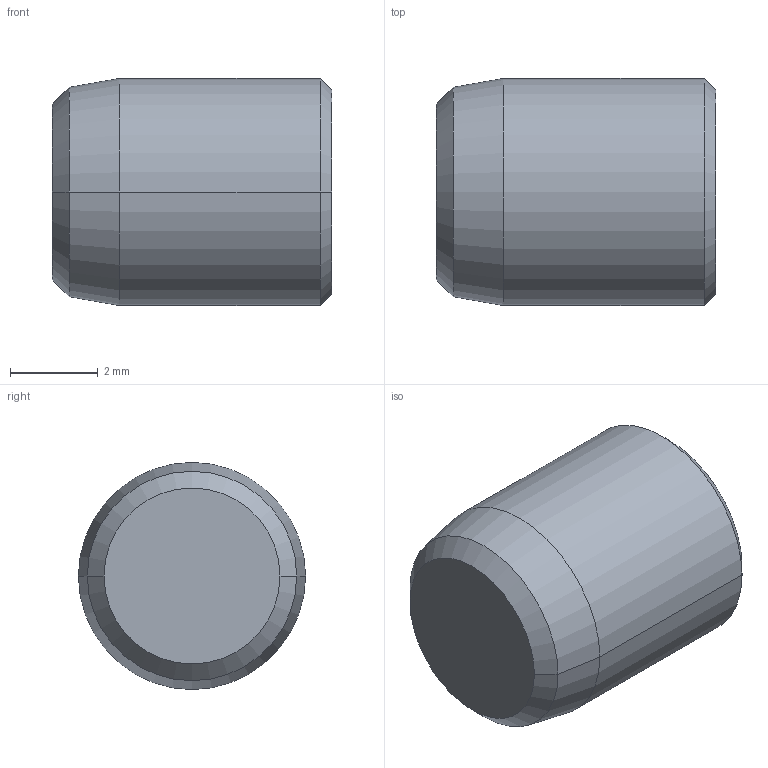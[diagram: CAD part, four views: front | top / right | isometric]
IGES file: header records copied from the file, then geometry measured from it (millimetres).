
Start section:  PTC IGES file: bb54.igs
Global section: file name: bb54.igs; native system: Pro/ENGINEER by Parametric Technology Corporation; preprocessor: 2002350; author: chant; organization: Unknown; date: 070705.143114; units: inch
Bounding box: 6.35 x 5.17 x 5.17 mm (x, y, z)
Surface area: 136.9 mm2 (no closed solid volume)
Topology: 0 solids, 0 shells, 13 faces, 65 edges, 75 vertices
Faces by surface type: revolution 10, bspline 3
